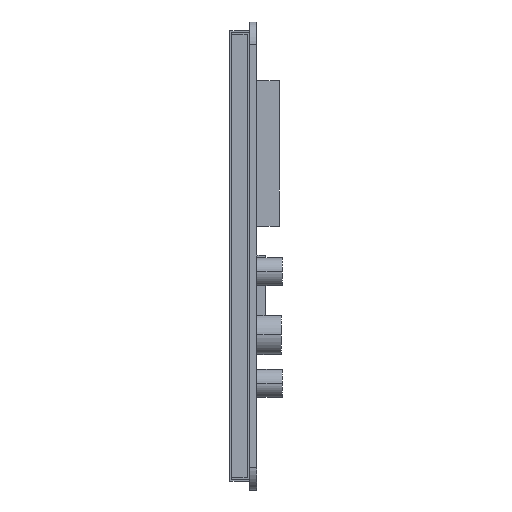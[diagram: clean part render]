
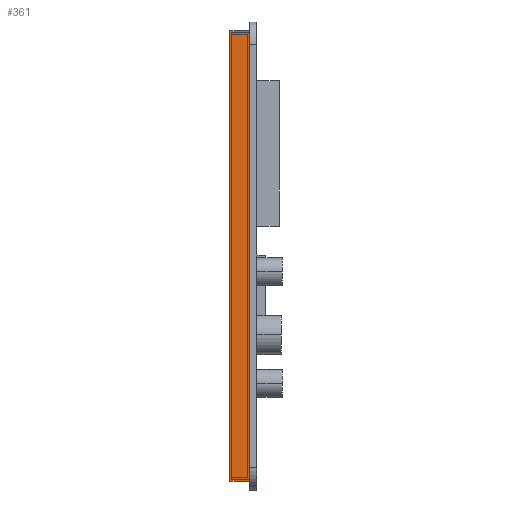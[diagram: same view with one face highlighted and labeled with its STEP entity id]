
A CAD part, left-side view. The second image highlights one B-rep face of the part: STEP entity #361.
In plain terms, the highlighted planar face has unit normal (-1, 0, 0).
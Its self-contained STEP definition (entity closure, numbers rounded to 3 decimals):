
#20=DIRECTION('',(0.,0.,1.));
#21=VECTOR('',#20,101.5);
#22=CARTESIAN_POINT('',(-83.1,0.,-50.75));
#23=LINE('',#22,#21);
#77=DIRECTION('',(0.,1.,0.));
#78=VECTOR('',#77,4.5);
#79=CARTESIAN_POINT('',(-83.1,0.,-50.75));
#80=LINE('',#79,#78);
#98=DIRECTION('',(0.,1.,0.));
#99=VECTOR('',#98,4.5);
#100=CARTESIAN_POINT('',(-83.1,0.,50.75));
#101=LINE('',#100,#99);
#105=DIRECTION('',(0.,0.,1.));
#106=VECTOR('',#105,101.5);
#107=CARTESIAN_POINT('',(-83.1,4.5,-50.75));
#108=LINE('',#107,#106);
#273=CARTESIAN_POINT('',(-83.1,0.,-50.75));
#274=CARTESIAN_POINT('',(-83.1,0.,50.75));
#275=VERTEX_POINT('',#273);
#276=VERTEX_POINT('',#274);
#281=CARTESIAN_POINT('',(-83.1,4.5,-50.75));
#282=CARTESIAN_POINT('',(-83.1,4.5,50.75));
#283=VERTEX_POINT('',#281);
#284=VERTEX_POINT('',#282);
#347=CARTESIAN_POINT('',(-83.1,0.,-50.75));
#348=DIRECTION('',(-1.,0.,0.));
#349=DIRECTION('',(0.,0.,1.));
#350=AXIS2_PLACEMENT_3D('',#347,#348,#349);
#351=PLANE('',#350);
#352=ORIENTED_EDGE('',*,*,#326,.F.);
#354=ORIENTED_EDGE('',*,*,#353,.T.);
#356=ORIENTED_EDGE('',*,*,#355,.T.);
#358=ORIENTED_EDGE('',*,*,#357,.F.);
#359=EDGE_LOOP('',(#352,#354,#356,#358));
#360=FACE_OUTER_BOUND('',#359,.F.);
#326=EDGE_CURVE('',#275,#276,#23,.T.);
#353=EDGE_CURVE('',#275,#283,#80,.T.);
#355=EDGE_CURVE('',#283,#284,#108,.T.);
#357=EDGE_CURVE('',#276,#284,#101,.T.);
#361=ADVANCED_FACE('',(#360),#351,.T.);
